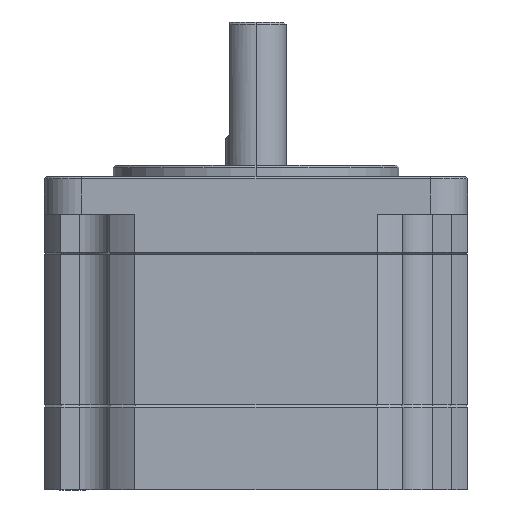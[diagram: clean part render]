
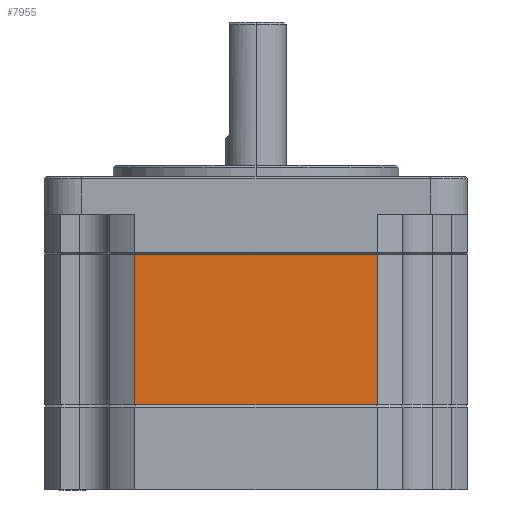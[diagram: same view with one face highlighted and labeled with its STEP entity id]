
A CAD part, front view. The second image highlights one B-rep face of the part: STEP entity #7955.
In plain terms, the highlighted planar face has unit normal (0, -1, 0).
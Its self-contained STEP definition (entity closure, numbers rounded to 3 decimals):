
#1007 = VECTOR ( 'NONE', #11571, 1000. ) ;
#1024 = CARTESIAN_POINT ( 'NONE',  ( -16.156, -28.2, -20. ) ) ;
#1554 = LINE ( 'NONE', #7000, #2901 ) ;
#1595 = AXIS2_PLACEMENT_3D ( 'NONE', #13545, #17452, #6475 ) ;
#2134 = VECTOR ( 'NONE', #9491, 1000. ) ;
#2745 = VERTEX_POINT ( 'NONE', #1024 ) ;
#2845 = LINE ( 'NONE', #5896, #16090 ) ;
#2901 = VECTOR ( 'NONE', #11115, 1000. ) ;
#3345 = LINE ( 'NONE', #16915, #1007 ) ;
#4283 = VERTEX_POINT ( 'NONE', #9844 ) ;
#4736 = CARTESIAN_POINT ( 'NONE',  ( -16.156, -28.2, 0. ) ) ;
#5016 = EDGE_CURVE ( 'NONE', #17354, #11027, #1554, .T. ) ;
#5046 = PLANE ( 'NONE',  #1595 ) ;
#5198 = LINE ( 'NONE', #9136, #2134 ) ;
#5896 = CARTESIAN_POINT ( 'NONE',  ( 0., -28.2, -20. ) ) ;
#5950 = EDGE_CURVE ( 'NONE', #2745, #4283, #2845, .T. ) ;
#6311 = EDGE_CURVE ( 'NONE', #11027, #2745, #3345, .T. ) ;
#6475 = DIRECTION ( 'NONE',  ( 0., 0., -1. ) ) ;
#7000 = CARTESIAN_POINT ( 'NONE',  ( -16.156, -28.2, 0. ) ) ;
#7288 = ORIENTED_EDGE ( 'NONE', *, *, #11648, .F. ) ;
#7955 = ADVANCED_FACE ( 'NONE', ( #13628 ), #5046, .T. ) ;
#8636 = ORIENTED_EDGE ( 'NONE', *, *, #6311, .T. ) ;
#9136 = CARTESIAN_POINT ( 'NONE',  ( 16.156, -28.2, -20. ) ) ;
#9491 = DIRECTION ( 'NONE',  ( 0., 0., -1. ) ) ;
#9844 = CARTESIAN_POINT ( 'NONE',  ( 16.156, -28.2, -20. ) ) ;
#11027 = VERTEX_POINT ( 'NONE', #4736 ) ;
#11115 = DIRECTION ( 'NONE',  ( -1., 0., 0. ) ) ;
#11571 = DIRECTION ( 'NONE',  ( 0., 0., -1. ) ) ;
#11648 = EDGE_CURVE ( 'NONE', #17354, #4283, #5198, .T. ) ;
#12778 = DIRECTION ( 'NONE',  ( 1., 0., 0. ) ) ;
#13545 = CARTESIAN_POINT ( 'NONE',  ( -16.156, -28.2, -20. ) ) ;
#13628 = FACE_OUTER_BOUND ( 'NONE', #14343, .T. ) ;
#14343 = EDGE_LOOP ( 'NONE', ( #15096, #7288, #15076, #8636 ) ) ;
#15076 = ORIENTED_EDGE ( 'NONE', *, *, #5016, .T. ) ;
#15096 = ORIENTED_EDGE ( 'NONE', *, *, #5950, .T. ) ;
#16090 = VECTOR ( 'NONE', #12778, 1000. ) ;
#16671 = CARTESIAN_POINT ( 'NONE',  ( 16.156, -28.2, 0. ) ) ;
#16915 = CARTESIAN_POINT ( 'NONE',  ( -16.156, -28.2, -20. ) ) ;
#17354 = VERTEX_POINT ( 'NONE', #16671 ) ;
#17452 = DIRECTION ( 'NONE',  ( 0., -1., 0. ) ) ;
